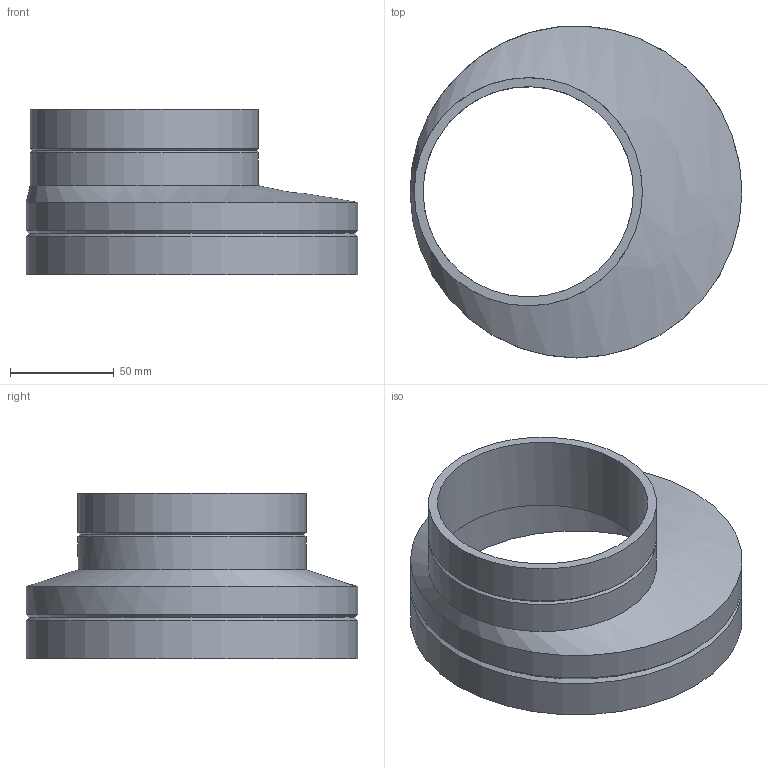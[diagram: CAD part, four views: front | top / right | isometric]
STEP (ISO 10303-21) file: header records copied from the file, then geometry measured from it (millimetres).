
FILE_DESCRIPTION(/* description */ (''),/* implementation_level */ '2;1');
FILE_NAME(/* name */ 'Z:\Geberit\Export\NewStep\369586.stp',/* time_stamp */ '2014-04-02T08:02:55+02:00',/* author */ ('nelson'),/* organization */ (''),/* preprocessor_version */ 'ST-DEVELOPER v15.2',/* originating_system */ 'Autodesk Inventor 2014',/* authorisation */ '');
FILE_SCHEMA (('AUTOMOTIVE_DESIGN { 1 0 10303 214 3 1 1 }'));
Length unit declared in the file: millimetre
Products named in the file (1): 369586
Bounding box: 160 x 160 x 80 mm (x, y, z)
Volume: 173352.4 mm3; surface area: 85304.4 mm2
Topology: 1 solids, 1 shells, 14 faces, 34 edges, 22 vertices
Faces by surface type: cylinder 6, cone 4, bspline 2, plane 2
Full cylindrical faces by diameter (mm): 101.4 x1, 110 x2, 147.6 x1, 160 x2
Entity records: 397 total; most frequent: CARTESIAN_POINT 89, DIRECTION 62, ORIENTED_EDGE 40, AXIS2_PLACEMENT_3D 31, EDGE_LOOP 26, EDGE_CURVE 20, CIRCLE 18, VERTEX_POINT 18
